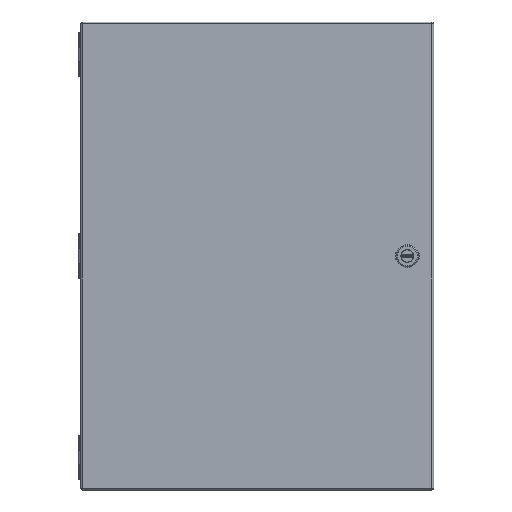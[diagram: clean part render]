
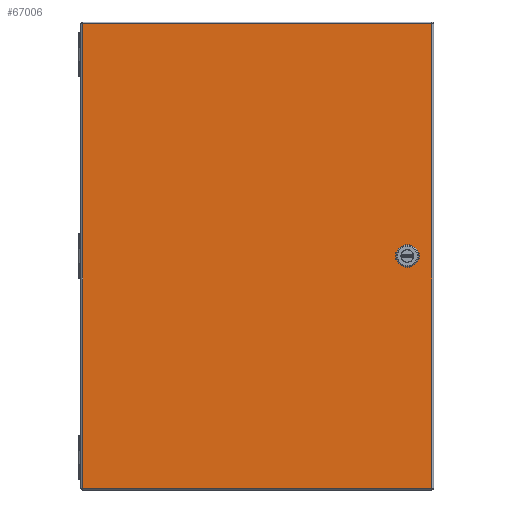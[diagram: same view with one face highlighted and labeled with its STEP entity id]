
A CAD part, top view. The second image highlights one B-rep face of the part: STEP entity #67006.
In plain terms, the highlighted planar face has unit normal (0, 0, 1).
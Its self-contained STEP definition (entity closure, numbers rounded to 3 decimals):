
#4605=FACE_BOUND('',#11827,.T.);
#5303=CIRCLE('',#71456,0.492);
#5308=CIRCLE('',#71465,0.443);
#5309=CIRCLE('',#71468,0.443);
#5310=CIRCLE('',#71471,0.443);
#7824=FACE_OUTER_BOUND('',#11826,.T.);
#11826=EDGE_LOOP('',(#48343,#48344,#48345,#48346));
#11827=EDGE_LOOP('',(#48347,#48348,#48349,#48350,#48351,#48352,#48353,#48354,
#48355,#48356));
#16346=LINE('',#94959,#22847);
#16351=LINE('',#94973,#22852);
#16356=LINE('',#94982,#22857);
#16366=LINE('',#95011,#22867);
#16369=LINE('',#95018,#22870);
#16371=LINE('',#95024,#22872);
#16454=LINE('',#95274,#22955);
#16455=LINE('',#95276,#22956);
#16456=LINE('',#95278,#22957);
#16457=LINE('',#95280,#22958);
#22847=VECTOR('',#78305,0.394);
#22852=VECTOR('',#78318,0.394);
#22857=VECTOR('',#78325,0.394);
#22867=VECTOR('',#78349,0.394);
#22870=VECTOR('',#78358,0.394);
#22872=VECTOR('',#78366,0.394);
#22955=VECTOR('',#78591,0.394);
#22956=VECTOR('',#78594,0.394);
#22957=VECTOR('',#78597,0.394);
#22958=VECTOR('',#78600,0.394);
#29237=VERTEX_POINT('',#94957);
#29238=VERTEX_POINT('',#94958);
#29241=VERTEX_POINT('',#94966);
#29243=VERTEX_POINT('',#94972);
#29246=VERTEX_POINT('',#94980);
#29256=VERTEX_POINT('',#95004);
#29257=VERTEX_POINT('',#95006);
#29258=VERTEX_POINT('',#95010);
#29259=VERTEX_POINT('',#95016);
#29260=VERTEX_POINT('',#95020);
#29262=VERTEX_POINT('',#95027);
#29267=VERTEX_POINT('',#95040);
#29272=VERTEX_POINT('',#95053);
#29277=VERTEX_POINT('',#95066);
#36153=EDGE_CURVE('',#29237,#29238,#16346,.T.);
#36157=EDGE_CURVE('',#29241,#29237,#5303,.T.);
#36160=EDGE_CURVE('',#29243,#29241,#16351,.T.);
#36165=EDGE_CURVE('',#29238,#29246,#16356,.T.);
#36177=EDGE_CURVE('',#29257,#29256,#5308,.T.);
#36179=EDGE_CURVE('',#29258,#29257,#16366,.T.);
#36181=EDGE_CURVE('',#29246,#29258,#5309,.T.);
#36183=EDGE_CURVE('',#29256,#29259,#16369,.T.);
#36185=EDGE_CURVE('',#29259,#29260,#5310,.T.);
#36186=EDGE_CURVE('',#29260,#29243,#16371,.T.);
#36313=EDGE_CURVE('',#29277,#29262,#16454,.T.);
#36314=EDGE_CURVE('',#29262,#29272,#16455,.T.);
#36315=EDGE_CURVE('',#29272,#29267,#16456,.T.);
#36316=EDGE_CURVE('',#29267,#29277,#16457,.T.);
#48343=ORIENTED_EDGE('',*,*,#36315,.T.);
#48344=ORIENTED_EDGE('',*,*,#36316,.T.);
#48345=ORIENTED_EDGE('',*,*,#36313,.T.);
#48346=ORIENTED_EDGE('',*,*,#36314,.T.);
#48347=ORIENTED_EDGE('',*,*,#36153,.T.);
#48348=ORIENTED_EDGE('',*,*,#36165,.T.);
#48349=ORIENTED_EDGE('',*,*,#36181,.T.);
#48350=ORIENTED_EDGE('',*,*,#36179,.T.);
#48351=ORIENTED_EDGE('',*,*,#36177,.T.);
#48352=ORIENTED_EDGE('',*,*,#36183,.T.);
#48353=ORIENTED_EDGE('',*,*,#36185,.T.);
#48354=ORIENTED_EDGE('',*,*,#36186,.T.);
#48355=ORIENTED_EDGE('',*,*,#36160,.T.);
#48356=ORIENTED_EDGE('',*,*,#36157,.T.);
#64653=PLANE('',#71691);
#67006=ADVANCED_FACE('',(#7824,#4605),#64653,.T.);
#71456=AXIS2_PLACEMENT_3D('',#94967,#78311,#78312);
#71465=AXIS2_PLACEMENT_3D('',#95007,#78344,#78345);
#71468=AXIS2_PLACEMENT_3D('',#95014,#78353,#78354);
#71471=AXIS2_PLACEMENT_3D('',#95022,#78362,#78363);
#71691=AXIS2_PLACEMENT_3D('',#95619,#79011,#79012);
#78305=DIRECTION('',(0.,-1.,0.));
#78311=DIRECTION('center_axis',(0.,0.,-1.));
#78312=DIRECTION('ref_axis',(1.,0.,0.));
#78318=DIRECTION('',(-1.,0.,0.));
#78325=DIRECTION('',(1.,0.,0.));
#78344=DIRECTION('center_axis',(0.,0.,-1.));
#78345=DIRECTION('ref_axis',(1.,0.,0.));
#78349=DIRECTION('',(0.,-1.,0.));
#78353=DIRECTION('center_axis',(0.,0.,-1.));
#78354=DIRECTION('ref_axis',(1.,0.,0.));
#78358=DIRECTION('',(-1.,0.,0.));
#78362=DIRECTION('center_axis',(0.,0.,-1.));
#78363=DIRECTION('ref_axis',(1.,0.,0.));
#78366=DIRECTION('',(0.,1.,0.));
#78591=DIRECTION('',(-1.,0.,0.));
#78594=DIRECTION('',(0.,-1.,0.));
#78597=DIRECTION('',(1.,0.,0.));
#78600=DIRECTION('',(0.,1.,0.));
#79011=DIRECTION('center_axis',(0.,0.,1.));
#79012=DIRECTION('ref_axis',(1.,0.,0.));
#94957=CARTESIAN_POINT('',(7.904,0.486,0.068));
#94958=CARTESIAN_POINT('',(7.904,0.396,0.068));
#94959=CARTESIAN_POINT('',(7.904,0.243,0.068));
#94966=CARTESIAN_POINT('',(7.339,-0.079,0.068));
#94967=CARTESIAN_POINT('Origin',(7.825,0.,0.068));
#94972=CARTESIAN_POINT('',(7.429,-0.079,0.068));
#94973=CARTESIAN_POINT('',(3.952,-0.079,0.068));
#94980=CARTESIAN_POINT('',(8.024,0.396,0.068));
#94982=CARTESIAN_POINT('',(3.813,0.396,0.068));
#95004=CARTESIAN_POINT('',(8.024,-0.396,0.068));
#95006=CARTESIAN_POINT('',(8.221,-0.199,0.068));
#95007=CARTESIAN_POINT('Origin',(7.825,0.,0.068));
#95010=CARTESIAN_POINT('',(8.221,0.199,0.068));
#95011=CARTESIAN_POINT('',(8.221,0.1,0.068));
#95014=CARTESIAN_POINT('Origin',(7.825,0.,0.068));
#95016=CARTESIAN_POINT('',(7.626,-0.396,0.068));
#95018=CARTESIAN_POINT('',(4.012,-0.396,0.068));
#95020=CARTESIAN_POINT('',(7.429,-0.199,0.068));
#95022=CARTESIAN_POINT('Origin',(7.825,0.,0.068));
#95024=CARTESIAN_POINT('',(7.429,-0.1,0.068));
#95027=CARTESIAN_POINT('',(-9.101,12.101,0.068));
#95040=CARTESIAN_POINT('',(9.101,-12.101,0.068));
#95053=CARTESIAN_POINT('',(-9.101,-12.101,0.068));
#95066=CARTESIAN_POINT('',(9.101,12.101,0.068));
#95274=CARTESIAN_POINT('',(-4.551,12.101,0.068));
#95276=CARTESIAN_POINT('',(-9.101,-6.1,0.068));
#95278=CARTESIAN_POINT('',(4.551,-12.101,0.068));
#95280=CARTESIAN_POINT('',(9.101,6.1,0.068));
#95619=CARTESIAN_POINT('Origin',(0.,0.,0.068));
